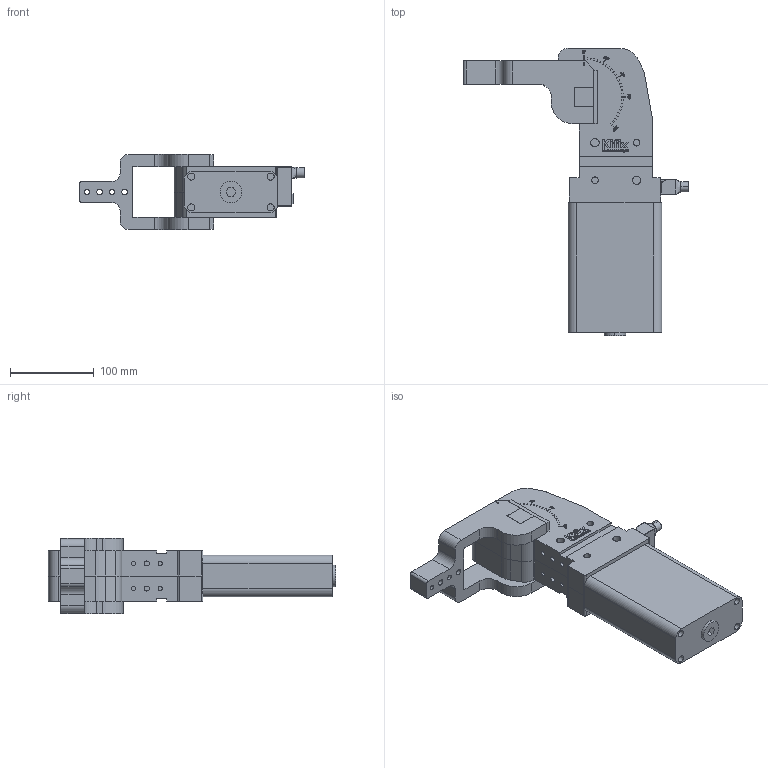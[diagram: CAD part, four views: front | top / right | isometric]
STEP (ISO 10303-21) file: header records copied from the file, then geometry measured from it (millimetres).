
FILE_DESCRIPTION (( 'STEP AP203' ), '1' );
FILE_NAME ('KFPW-L63 - SITE.STEP', '2013-09-05T13:27:49', ( 'Ricardo' ), ( '' ), 'SwSTEP 2.0', 'SolidWorks 2012', '' );
FILE_SCHEMA (( 'CONFIG_CONTROL_DESIGN' ));
Products named in the file (6): KFPW-L63 - SITE; CARCAÇA; CIL KFP-L63; NBN2-F581-140S6-E8-V1; 15.20027; 03.20077
Assembly tree (6 placements, depth 2):
  KFPW-L63 - SITE
    03.20077
    15.20027  x2
    NBN2-F581-140S6-E8-V1
    CIL KFP-L63
    CARCAÇA
Bounding box: 269.29 x 344 x 90 mm (x, y, z)
Volume: 2119813.6 mm3; surface area: 245257 mm2
Topology: 7 solids, 7 shells, 2326 faces, 6337 edges, 4204 vertices
Faces by surface type: bspline 1240, plane 936, cylinder 142, cone 8
Entity records: 93265 total; most frequent: CARTESIAN_POINT 42390, ORIENTED_EDGE 12586, EDGE_CURVE 6293, DIRECTION 6267, VERTEX_POINT 4188, VECTOR 3541, LINE 3541, EDGE_LOOP 2537
